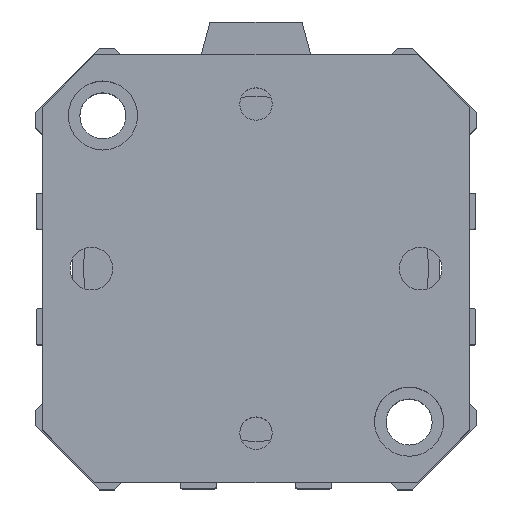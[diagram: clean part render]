
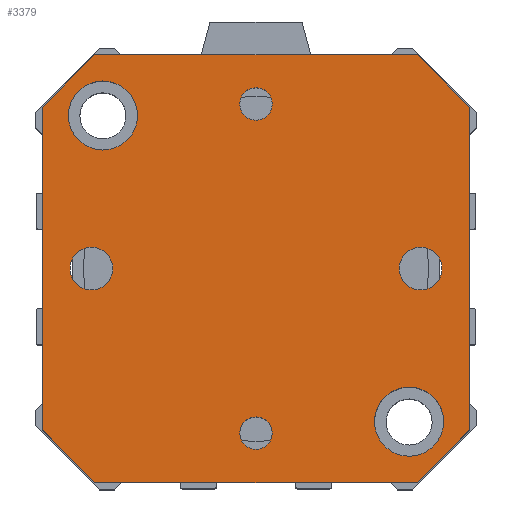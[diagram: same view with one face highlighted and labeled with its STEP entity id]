
A CAD part, top view. The second image highlights one B-rep face of the part: STEP entity #3379.
In plain terms, the highlighted planar face has unit normal (0, 0, 1).
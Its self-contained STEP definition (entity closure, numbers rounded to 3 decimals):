
#265=LINE('',#5630,#519);
#267=LINE('',#5634,#521);
#269=LINE('',#5638,#523);
#271=LINE('',#5642,#525);
#273=LINE('',#5646,#527);
#275=LINE('',#5650,#529);
#277=LINE('',#5654,#531);
#279=LINE('',#5657,#533);
#519=VECTOR('',#4681,49.);
#521=VECTOR('',#4685,11.314);
#523=VECTOR('',#4689,49.);
#525=VECTOR('',#4693,11.314);
#527=VECTOR('',#4697,49.);
#529=VECTOR('',#4701,11.314);
#531=VECTOR('',#4705,49.);
#533=VECTOR('',#4709,11.314);
#627=PLANE('',#3743);
#716=FACE_BOUND('',#1138,.T.);
#717=FACE_BOUND('',#1139,.T.);
#718=FACE_BOUND('',#1140,.T.);
#719=FACE_BOUND('',#1141,.T.);
#720=FACE_BOUND('',#1142,.T.);
#721=FACE_BOUND('',#1143,.T.);
#722=FACE_BOUND('',#1144,.T.);
#1138=EDGE_LOOP('',(#2914));
#1139=EDGE_LOOP('',(#2915));
#1140=EDGE_LOOP('',(#2916));
#1141=EDGE_LOOP('',(#2917));
#1142=EDGE_LOOP('',(#2918));
#1143=EDGE_LOOP('',(#2919));
#1144=EDGE_LOOP('',(#2920,#2921,#2922,#2923,#2924,#2925,#2926,#2927));
#1309=CIRCLE('',#3699,2.459);
#1311=CIRCLE('',#3702,2.459);
#1316=CIRCLE('',#3710,3.25);
#1320=CIRCLE('',#3717,3.25);
#1329=CIRCLE('',#3732,5.25);
#1330=CIRCLE('',#3734,5.25);
#1601=VERTEX_POINT('',#5548);
#1603=VERTEX_POINT('',#5553);
#1608=VERTEX_POINT('',#5566);
#1612=VERTEX_POINT('',#5577);
#1631=VERTEX_POINT('',#5621);
#1632=VERTEX_POINT('',#5624);
#1633=VERTEX_POINT('',#5627);
#1634=VERTEX_POINT('',#5629);
#1635=VERTEX_POINT('',#5633);
#1636=VERTEX_POINT('',#5637);
#1637=VERTEX_POINT('',#5641);
#1638=VERTEX_POINT('',#5645);
#1639=VERTEX_POINT('',#5649);
#1640=VERTEX_POINT('',#5653);
#2025=EDGE_CURVE('',#1601,#1601,#1309,.T.);
#2027=EDGE_CURVE('',#1603,#1603,#1311,.T.);
#2032=EDGE_CURVE('',#1608,#1608,#1316,.T.);
#2036=EDGE_CURVE('',#1612,#1612,#1320,.T.);
#2055=EDGE_CURVE('',#1631,#1631,#1329,.T.);
#2056=EDGE_CURVE('',#1632,#1632,#1330,.T.);
#2058=EDGE_CURVE('',#1634,#1633,#265,.T.);
#2060=EDGE_CURVE('',#1635,#1634,#267,.T.);
#2062=EDGE_CURVE('',#1636,#1635,#269,.T.);
#2064=EDGE_CURVE('',#1637,#1636,#271,.T.);
#2066=EDGE_CURVE('',#1638,#1637,#273,.T.);
#2068=EDGE_CURVE('',#1639,#1638,#275,.T.);
#2070=EDGE_CURVE('',#1640,#1639,#277,.T.);
#2072=EDGE_CURVE('',#1633,#1640,#279,.T.);
#2914=ORIENTED_EDGE('',*,*,#2025,.T.);
#2915=ORIENTED_EDGE('',*,*,#2027,.T.);
#2916=ORIENTED_EDGE('',*,*,#2032,.T.);
#2917=ORIENTED_EDGE('',*,*,#2036,.T.);
#2918=ORIENTED_EDGE('',*,*,#2055,.T.);
#2919=ORIENTED_EDGE('',*,*,#2056,.T.);
#2920=ORIENTED_EDGE('',*,*,#2072,.T.);
#2921=ORIENTED_EDGE('',*,*,#2070,.T.);
#2922=ORIENTED_EDGE('',*,*,#2068,.T.);
#2923=ORIENTED_EDGE('',*,*,#2066,.T.);
#2924=ORIENTED_EDGE('',*,*,#2064,.T.);
#2925=ORIENTED_EDGE('',*,*,#2062,.T.);
#2926=ORIENTED_EDGE('',*,*,#2060,.T.);
#2927=ORIENTED_EDGE('',*,*,#2058,.T.);
#3379=ADVANCED_FACE('',(#716,#717,#718,#719,#720,#721,#722),#627,.T.);
#3699=AXIS2_PLACEMENT_3D('',#5549,#4596,#4597);
#3702=AXIS2_PLACEMENT_3D('',#5554,#4602,#4603);
#3710=AXIS2_PLACEMENT_3D('',#5567,#4618,#4619);
#3717=AXIS2_PLACEMENT_3D('',#5578,#4632,#4633);
#3732=AXIS2_PLACEMENT_3D('',#5622,#4672,#4673);
#3734=AXIS2_PLACEMENT_3D('',#5625,#4676,#4677);
#3743=AXIS2_PLACEMENT_3D('',#5658,#4710,#4711);
#4596=DIRECTION('center_axis',(0.,0.,-1.));
#4597=DIRECTION('ref_axis',(1.,0.,0.));
#4602=DIRECTION('center_axis',(0.,0.,-1.));
#4603=DIRECTION('ref_axis',(1.,0.,0.));
#4618=DIRECTION('center_axis',(0.,0.,-1.));
#4619=DIRECTION('ref_axis',(1.,0.,0.));
#4632=DIRECTION('center_axis',(0.,0.,-1.));
#4633=DIRECTION('ref_axis',(1.,0.,0.));
#4672=DIRECTION('center_axis',(0.,0.,-1.));
#4673=DIRECTION('ref_axis',(-1.,0.,0.));
#4676=DIRECTION('center_axis',(0.,0.,-1.));
#4677=DIRECTION('ref_axis',(-1.,0.,0.));
#4681=DIRECTION('',(0.,1.,0.));
#4685=DIRECTION('',(0.707,0.707,0.));
#4689=DIRECTION('',(1.,0.,0.));
#4693=DIRECTION('',(0.707,-0.707,0.));
#4697=DIRECTION('',(0.,-1.,0.));
#4701=DIRECTION('',(-0.707,-0.707,0.));
#4705=DIRECTION('',(-1.,0.,0.));
#4709=DIRECTION('',(-0.707,0.707,0.));
#4710=DIRECTION('center_axis',(0.,0.,1.));
#4711=DIRECTION('ref_axis',(1.,0.,0.));
#5548=CARTESIAN_POINT('',(-27.459,0.,52.));
#5549=CARTESIAN_POINT('Origin',(-25.,0.,52.));
#5553=CARTESIAN_POINT('',(22.542,0.,52.));
#5554=CARTESIAN_POINT('Origin',(25.,0.,52.));
#5566=CARTESIAN_POINT('',(-3.25,25.,52.));
#5567=CARTESIAN_POINT('Origin',(0.,25.,52.));
#5577=CARTESIAN_POINT('',(-3.25,-25.,52.));
#5578=CARTESIAN_POINT('Origin',(0.,-25.,52.));
#5621=CARTESIAN_POINT('',(-18.,-23.25,52.));
#5622=CARTESIAN_POINT('Origin',(-23.25,-23.25,52.));
#5624=CARTESIAN_POINT('',(28.5,23.25,52.));
#5625=CARTESIAN_POINT('Origin',(23.25,23.25,52.));
#5627=CARTESIAN_POINT('',(32.5,24.5,52.));
#5629=CARTESIAN_POINT('',(32.5,-24.5,52.));
#5630=CARTESIAN_POINT('',(32.5,24.5,52.));
#5633=CARTESIAN_POINT('',(24.5,-32.5,52.));
#5634=CARTESIAN_POINT('',(32.5,-24.5,52.));
#5637=CARTESIAN_POINT('',(-24.5,-32.5,52.));
#5638=CARTESIAN_POINT('',(24.5,-32.5,52.));
#5641=CARTESIAN_POINT('',(-32.5,-24.5,52.));
#5642=CARTESIAN_POINT('',(-24.5,-32.5,52.));
#5645=CARTESIAN_POINT('',(-32.5,24.5,52.));
#5646=CARTESIAN_POINT('',(-32.5,-24.5,52.));
#5649=CARTESIAN_POINT('',(-24.5,32.5,52.));
#5650=CARTESIAN_POINT('',(-32.5,24.5,52.));
#5653=CARTESIAN_POINT('',(24.5,32.5,52.));
#5654=CARTESIAN_POINT('',(-24.5,32.5,52.));
#5657=CARTESIAN_POINT('',(24.5,32.5,52.));
#5658=CARTESIAN_POINT('Origin',(0.,0.,52.));
